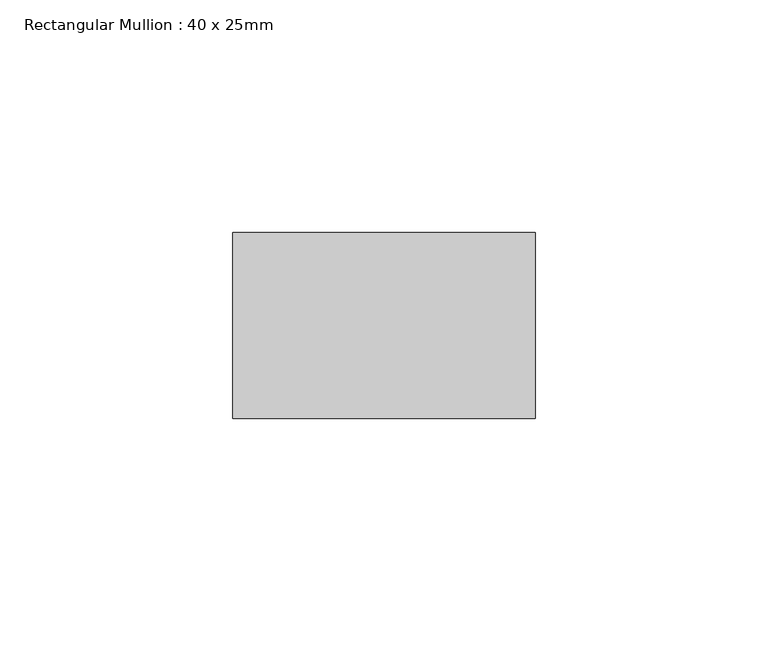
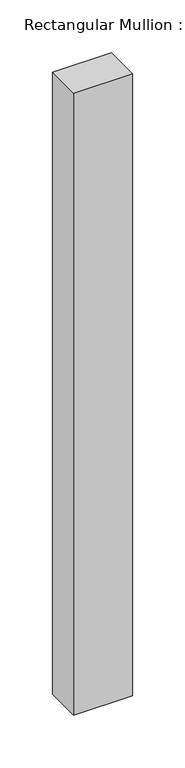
"""IFC4 building model written with IfcOpenShell, lengths in millimetres: member geometry, Rectangular Mullion : 40 x 25mm."""

from ifc_helpers import new_model, si_unit, frame, origin, place, context, project, spatial, polyline, outline, extrude, source, transform, mapped, element, save


def rectangular_mullion_40_x_25mm_66d28652(model_context):
    return source(origin(), model_context, "Body", "SweptSolid", [
        extrude(outline(polyline([(0.0, -20.0), (0.0, -60.0), (-65.0, -60.0), (-65.0, -20.0), (0.0, -20.0)])), frame((0.0, 0.0, -722.1332885), z_axis=(0.0, 0.0, 1.0), x_axis=(1.0, 0.0, 0.0)), (0.0, 0.0, 1.0), 722.1332885),
    ])


if __name__ == "__main__":
    model = new_model("IFC4")
    model_context = context("Model", 3, world=origin())
    ifc_project = project(units=[si_unit("LENGTHUNIT", "METRE", prefix="MILLI")], contexts=[model_context])
    site = spatial("IfcSite", under=ifc_project)
    building = spatial("IfcBuilding", under=site)
    placement = place(None, origin())
    rectangular_mullion_40_x_25mm_shape = rectangular_mullion_40_x_25mm_66d28652(model_context)
    element("IfcMember", 1, ObjectType="Rectangular Mullion : 40 x 25mm", at=placement, inside=building, context=model_context, shape_type="MappedRepresentation", body=[
        mapped(rectangular_mullion_40_x_25mm_shape, transform((0.0, 0.0, 0.0), x_axis=(1.0, 0.0, 0.0), y_axis=(0.0, 1.0, 0.0), z_axis=(0.0, 0.0, 1.0))),
    ])
    save(model, "model.ifc")
